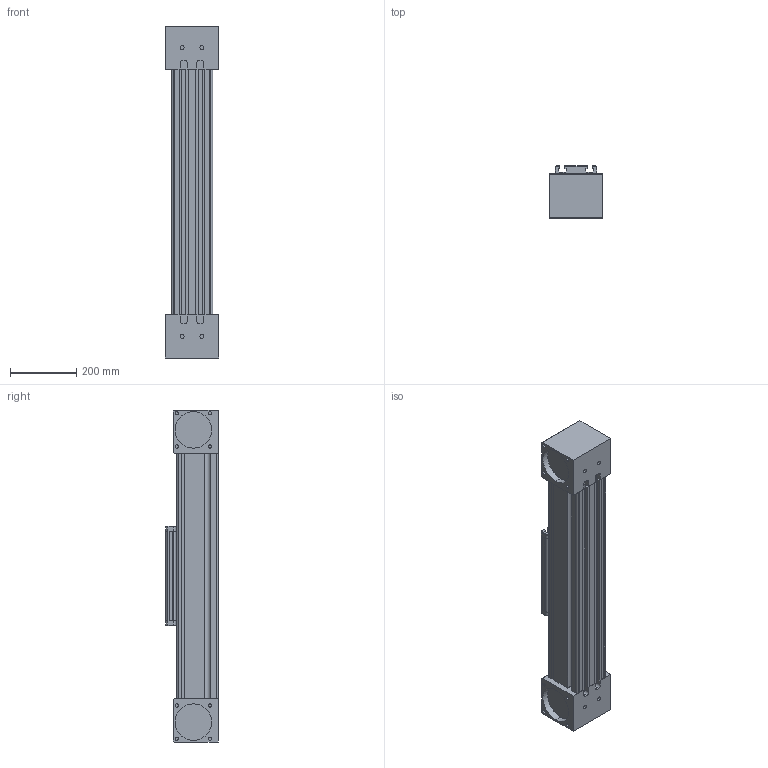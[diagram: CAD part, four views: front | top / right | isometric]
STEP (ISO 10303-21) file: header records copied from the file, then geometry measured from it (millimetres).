
FILE_DESCRIPTION (( 'STEP AP203' ), '1' );
FILE_NAME ('QSRZ125.STEP', '2021-09-30T06:16:29', ( '' ), ( '' ), 'SwSTEP 2.0', 'SolidWorks 2020', '' );
FILE_SCHEMA (( 'CONFIG_CONTROL_DESIGN' ));
Length unit declared in the file: millimetre
Products named in the file (4): carriage^QSRZ125_carriage  0; timing belt reverse unit^QSRZ125_without; QSRZ125; profile^QSRZ125
Assembly tree (4 placements, depth 2):
  QSRZ125
    profile^QSRZ125
    carriage^QSRZ125_carriage  0
    timing belt reverse unit^QSRZ125_without  x2
Bounding box: 160 x 157.5 x 1000 mm (x, y, z)
Volume: 13840913.8 mm3; surface area: 1034068.4 mm2
Topology: 6 solids, 6 shells, 311 faces, 809 edges, 534 vertices
Faces by surface type: plane 214, cylinder 89, torus 8
Entity records: 8341 total; most frequent: CARTESIAN_POINT 1395, ORIENTED_EDGE 1366, DIRECTION 1337, EDGE_CURVE 683, LINE 553, VECTOR 553, VERTEX_POINT 450, AXIS2_PLACEMENT_3D 392
